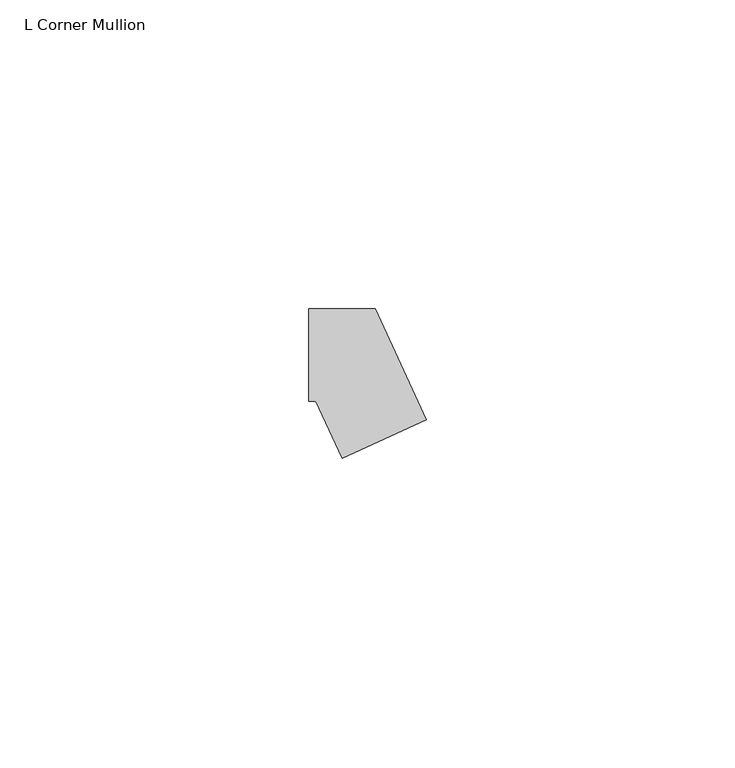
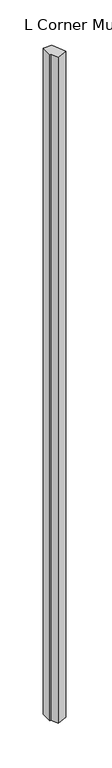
"""IFC4 building model written with IfcOpenShell, lengths in millimetres: member geometry, L Corner Mullion : ARQ_HERR_15X6mm."""

from ifc_helpers import new_model, si_unit, frame, origin, place, context, project, spatial, polyline, outline, extrude, source, transform, mapped, element, save


def l_corner_mullion_2c31851b(model_context):
    return source(origin(), model_context, "Body", "SweptSolid", [
        extrude(outline(polyline([(-0.5775282, -16.7605627), (-4.8156946, -7.5), (-6.0, -7.5), (-6.0, 7.5), (4.8156946, 7.5), (13.0619332, -10.5183601), (-0.5775282, -16.7605627)])), frame((0.0, 0.0, -936.1858164), z_axis=(0.0, 0.0, 1.0), x_axis=(1.0, 0.0, 0.0)), (0.0, 0.0, 1.0), 936.1858164),
    ])


if __name__ == "__main__":
    model = new_model("IFC4")
    model_context = context("Model", 3, world=origin())
    ifc_project = project(units=[si_unit("LENGTHUNIT", "METRE", prefix="MILLI")], contexts=[model_context])
    site = spatial("IfcSite", under=ifc_project)
    building = spatial("IfcBuilding", under=site)
    placement = place(None, origin())
    l_corner_mullion_shape = l_corner_mullion_2c31851b(model_context)
    element("IfcMember", 1, ObjectType="L Corner Mullion : ARQ_HERR_15X6mm", at=placement, inside=building, context=model_context, shape_type="MappedRepresentation", body=[
        mapped(l_corner_mullion_shape, transform((0.0, 0.0, 0.0), x_axis=(1.0, 0.0, 0.0), y_axis=(0.0, 1.0, 0.0), z_axis=(0.0, 0.0, 1.0))),
    ])
    save(model, "model.ifc")
